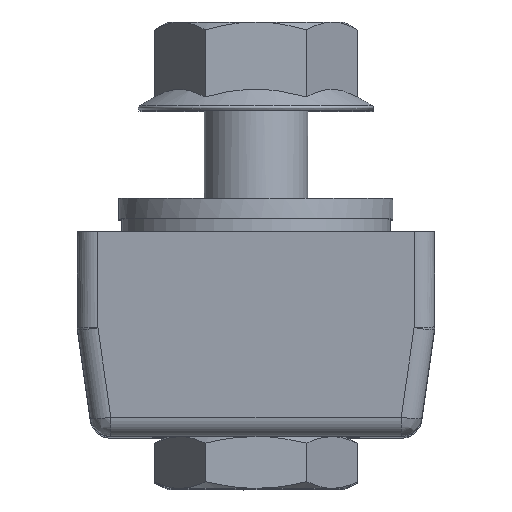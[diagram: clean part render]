
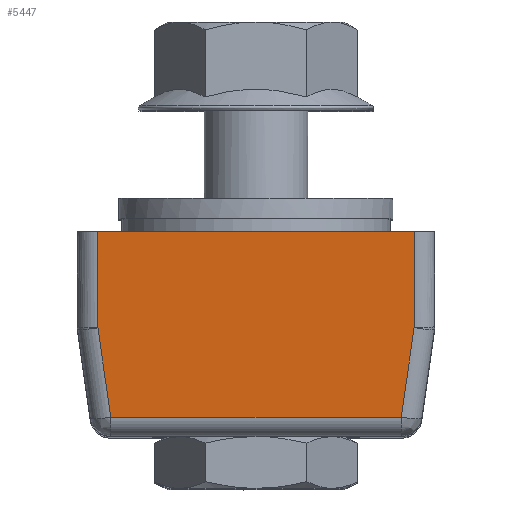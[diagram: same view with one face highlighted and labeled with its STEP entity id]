
A CAD part, top view. The second image highlights one B-rep face of the part: STEP entity #5447.
In plain terms, the highlighted free-form (B-spline) face has degree [1, 1] with [2, 2] control points.
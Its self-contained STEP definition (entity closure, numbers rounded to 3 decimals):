
#5303=CARTESIAN_POINT('V143',(-14.018,
   -17.651,101.64));
#5304=VERTEX_POINT('V143',#5303);
#5318=CARTESIAN_POINT('V138',(-15.25,-9.027,
   102.295));
#5319=VERTEX_POINT('V138',#5318);
#5320=CARTESIAN_POINT('E220',(-14.018,
   -17.651,101.64));
#5321=CARTESIAN_POINT('E220',(-15.25,-9.027,
   102.295));
#5322=B_SPLINE_CURVE_WITH_KNOTS('E220',1,(#5320,#5321),
   .POLYLINE_FORM.,.F.,.U.,(2,2),(2.0,4.8),
   .UNSPECIFIED.);
#5323=EDGE_CURVE('E220',#5304,#5319,#5322,.T.);
#5392=CARTESIAN_POINT('V139',(-15.25,0.25,
   103.0));
#5393=VERTEX_POINT('V139',#5392);
#5394=CARTESIAN_POINT('E215',(-15.25,-9.027,
   102.295));
#5395=CARTESIAN_POINT('E215',(-15.25,0.25,
   103.0));
#5396=B_SPLINE_CURVE_WITH_KNOTS('E215',1,(#5394,#5395),
   .POLYLINE_FORM.,.F.,.U.,(2,2),(2.0,4.961),
   .UNSPECIFIED.);
#5397=EDGE_CURVE('E215',#5319,#5393,#5396,.T.);
#5412=CARTESIAN_POINT('F81',(30.0,5.25,
   103.38));
#5413=CARTESIAN_POINT('F81',(30.0,-24.5,
   101.12));
#5414=CARTESIAN_POINT('F81',(-30.0,5.25,
   103.38));
#5415=CARTESIAN_POINT('F81',(-30.0,-24.5,
   101.12));
#5416=B_SPLINE_SURFACE_WITH_KNOTS('F81',1,1,((#5412,#5414),(#5413,
   #5415)),.PLANE_SURF.,.F.,.F.,.U.,(2,2),(2,2),(0.0,1.0),(0.0,
   2.011),.UNSPECIFIED.);
#5417=ORIENTED_EDGE('E220',*,*,#5323,.F.);
#5418=CARTESIAN_POINT('V142',(14.018,-17.651,
   101.64));
#5419=VERTEX_POINT('V142',#5418);
#5420=CARTESIAN_POINT('E219',(14.018,-17.651,
   101.64));
#5421=CARTESIAN_POINT('E219',(-14.018,
   -17.651,101.64));
#5422=B_SPLINE_CURVE_WITH_KNOTS('E219',1,(#5420,#5421),
   .POLYLINE_FORM.,.F.,.U.,(2,2),(2.0,11.377),
   .UNSPECIFIED.);
#5423=EDGE_CURVE('E219',#5419,#5304,#5422,.T.);
#5424=ORIENTED_EDGE('E219',*,*,#5423,.F.);
#5425=CARTESIAN_POINT('V141',(15.25,-9.027,
   102.295));
#5426=VERTEX_POINT('V141',#5425);
#5427=CARTESIAN_POINT('E218',(15.25,-9.027,
   102.295));
#5428=CARTESIAN_POINT('E218',(14.018,-17.651,
   101.64));
#5429=B_SPLINE_CURVE_WITH_KNOTS('E218',1,(#5427,#5428),
   .POLYLINE_FORM.,.F.,.U.,(2,2),(2.0,4.8),
   .UNSPECIFIED.);
#5430=EDGE_CURVE('E218',#5426,#5419,#5429,.T.);
#5431=ORIENTED_EDGE('E218',*,*,#5430,.F.);
#5432=CARTESIAN_POINT('V140',(15.25,0.25,
   103.0));
#5433=VERTEX_POINT('V140',#5432);
#5434=CARTESIAN_POINT('E217',(15.25,0.25,
   103.0));
#5435=CARTESIAN_POINT('E217',(15.25,-9.027,
   102.295));
#5436=B_SPLINE_CURVE_WITH_KNOTS('E217',1,(#5434,#5435),
   .POLYLINE_FORM.,.F.,.U.,(2,2),(2.0,4.961),
   .UNSPECIFIED.);
#5437=EDGE_CURVE('E217',#5433,#5426,#5436,.T.);
#5438=ORIENTED_EDGE('E217',*,*,#5437,.F.);
#5439=CARTESIAN_POINT('E216',(-15.25,0.25,
   103.0));
#5440=CARTESIAN_POINT('E216',(15.25,0.25,
   103.0));
#5441=B_SPLINE_CURVE_WITH_KNOTS('E216',1,(#5439,#5440),
   .POLYLINE_FORM.,.F.,.U.,(2,2),(0.4,
   6.5),.UNSPECIFIED.);
#5442=EDGE_CURVE('E216',#5393,#5433,#5441,.T.);
#5443=ORIENTED_EDGE('E216',*,*,#5442,.F.);
#5444=ORIENTED_EDGE('E215',*,*,#5397,.F.);
#5445=EDGE_LOOP('F81',(#5417,#5424,#5431,#5438,#5443,#5444));
#5446=FACE_OUTER_BOUND('F81',#5445,.T.);
#5447=ADVANCED_FACE('F81',(#5446),#5416,.F.);
